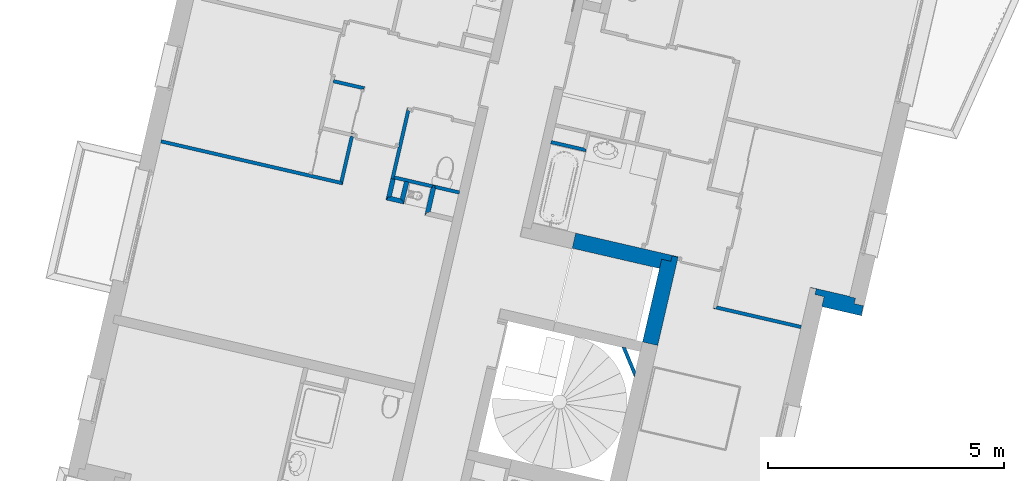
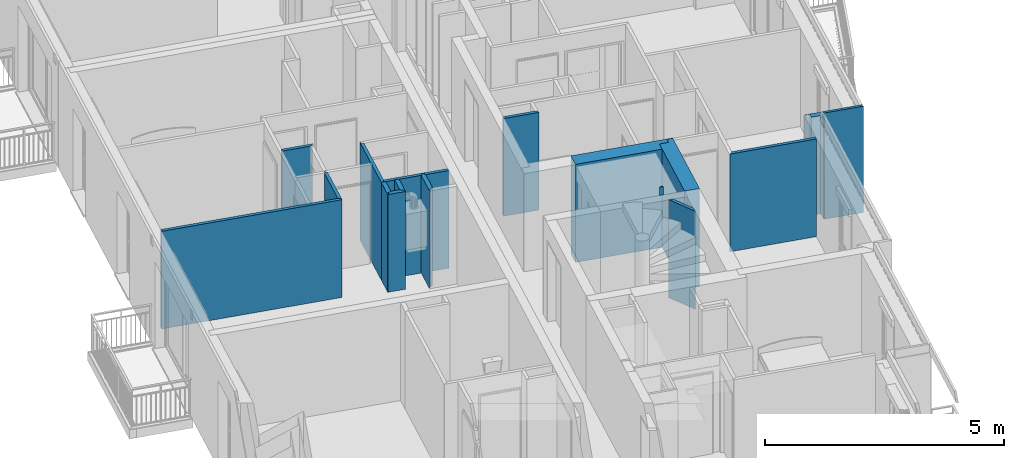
# One storey, part 43 of 91: 16 walls.
"""IFC2X3 building model written with IfcOpenShell, lengths in metres."""

import ifcopenshell
import ifcopenshell.guid

model = None  # the IFC model being written
_history = None  # IfcOwnerHistory: only IFC2X3 demands one
_inside = {}  # id of a spatial element -> (the spatial element, [elements in it])
_under = {}  # id of a project, library or spatial element -> (it, [spatial elements below it])
_declared = {}  # id of a project -> (the project, [libraries it declares])
_typed = {}  # id of a type object -> (the type object, [elements of that type])
_made_of = {}  # id of a material, layer set ... -> (it, [elements and type objects made of it])


def new_model(schema):
    """Start an empty IFC model of exactly this schema.

    Asked for "IFC4X3", IfcOpenShell would pick the latest addendum, in which some entities
    have other attributes; the version numbers below select the first issue.
    IFC2X3 requires an IfcOwnerHistory on every rooted entity: one is made here for all.
    """
    global model, _history
    if schema == "IFC4X3":
        model = ifcopenshell.file(schema_version=(4, 3, 0, 0))
    else:
        model = ifcopenshell.file(schema=schema)
    _inside.clear()
    _under.clear()
    _declared.clear()
    _typed.clear()
    _made_of.clear()
    _history = None
    if model.schema == "IFC2X3":
        org = make("IfcOrganization", Name="unknown")
        user = make(
            "IfcPersonAndOrganization",
            ThePerson=make("IfcPerson", FamilyName="unknown"),
            TheOrganization=org,
        )
        app = make(
            "IfcApplication",
            ApplicationDeveloper=org,
            Version="unknown",
            ApplicationFullName="unknown",
            ApplicationIdentifier="unknown",
        )
        _history = make(
            "IfcOwnerHistory",
            OwningUser=user,
            OwningApplication=app,
            ChangeAction="ADDED",
            CreationDate=0,
        )
    return model


def make(cls, **values):
    """One entity of the class cls with the attributes given. An attribute that is None is left unset."""
    return model.create_entity(
        cls, **{name: value for name, value in values.items() if value is not None}
    )


def entity(cls, *values):
    """Any entity or typed value of the class cls, its attributes in the order of the schema. None: left unset."""
    e = model.create_entity(cls)
    for i, value in enumerate(values):
        if value is not None:
            e[i] = value
    return e


def rooted(cls, **values):
    """An entity with a GlobalId (a new one), such as an element, a storey or a relation."""
    return make(cls, GlobalId=ifcopenshell.guid.new(), OwnerHistory=_history, **values)


def si_unit(unit_type, name, prefix=None):
    """IfcSIUnit, for example si_unit("LENGTHUNIT", "METRE", prefix="MILLI")."""
    return make("IfcSIUnit", UnitType=unit_type, Prefix=prefix, Name=name)


def converted_unit(unit_type, name, factor, base, dimensions=None, offset=None):
    """IfcConversionBasedUnit, such as the inch: factor (a typed value) times the base unit."""
    return make(
        "IfcConversionBasedUnit"
        if offset is None
        else "IfcConversionBasedUnitWithOffset",
        ConversionOffset=offset,
        Dimensions=None
        if dimensions is None
        else entity("IfcDimensionalExponents", *dimensions),
        UnitType=unit_type,
        Name=name,
        ConversionFactor=make(
            "IfcMeasureWithUnit", ValueComponent=factor, UnitComponent=base
        ),
    )


def derived_unit(unit_type, elements):
    """IfcDerivedUnit: a product of units, each with its exponent."""
    return make(
        "IfcDerivedUnit",
        Elements=[
            make("IfcDerivedUnitElement", Unit=unit, Exponent=power)
            for unit, power in elements
        ],
        UnitType=unit_type,
    )


def money_unit(currency):
    """IfcMonetaryUnit."""
    return make("IfcMonetaryUnit", Currency=currency)


def assignment(units):
    """IfcUnitAssignment: the units of a project."""
    return None if units is None else make("IfcUnitAssignment", Units=units)


def point(xyz):
    """IfcCartesianPoint."""
    return None if xyz is None else make("IfcCartesianPoint", Coordinates=xyz)


def direction(xyz):
    """IfcDirection."""
    return None if xyz is None else make("IfcDirection", DirectionRatios=xyz)


def frame(location, z_axis=None, x_axis=None):
    """IfcAxis2Placement3D, a coordinate frame: its origin and axes. An axis left out is left unset."""
    return make(
        "IfcAxis2Placement3D",
        Location=point(location),
        Axis=direction(z_axis),
        RefDirection=direction(x_axis),
    )


def origin_with_axes():
    """The frame at (0, 0, 0) with the z axis (0, 0, 1) and the x axis (1, 0, 0) written out."""
    return frame((0.0, 0.0, 0.0), z_axis=(0.0, 0.0, 1.0), x_axis=(1.0, 0.0, 0.0))


def place(relative_to, where):
    """IfcLocalPlacement: puts the frame where relative to a parent placement (None: the world)."""
    return make(
        "IfcLocalPlacement", PlacementRelTo=relative_to, RelativePlacement=where
    )


def context(
    kind, dimensions, precision=None, world=None, true_north=None, identifier=None
):
    """IfcGeometricRepresentationContext, for example the 3D "Model" context."""
    return make(
        "IfcGeometricRepresentationContext",
        ContextIdentifier=identifier,
        ContextType=kind,
        CoordinateSpaceDimension=dimensions,
        Precision=precision,
        WorldCoordinateSystem=world,
        TrueNorth=true_north,
    )


def subcontext(parent, identifier, kind, view, scale=None):
    """IfcGeometricRepresentationSubContext, for example "Body" below "Model"."""
    return make(
        "IfcGeometricRepresentationSubContext",
        ContextIdentifier=identifier,
        ContextType=kind,
        ParentContext=parent,
        TargetScale=scale,
        TargetView=view,
    )


def project(units=None, contexts=None):
    """IfcProject with its units and contexts."""
    return rooted(
        "IfcProject",
        Name="project",
        RepresentationContexts=contexts,
        UnitsInContext=assignment(units),
    )


def spatial(cls, under=None, at=None, **own):
    """A site, building, storey or space (cls), placed at a placement, below another one or the project."""
    s = rooted(cls, ObjectPlacement=at, **own)
    if under is not None:
        _under.setdefault(under.id(), (under, []))[1].append(s)
    return s


def faces_of(points, faces, orient=None, outer=None):
    """IfcFace entities. A face is a list of loops; a loop is a list of indices into points, from 0.

    orient and outer hold one flag for each loop. By default every Orientation is true, the
    first loop of a face is its IfcFaceOuterBound and the others are IfcFaceBound.
    """
    made = []
    for i, loops in enumerate(faces):
        bounds = []
        for j, loop in enumerate(loops):
            is_outer = j == 0 if outer is None else outer[i][j]
            bounds.append(
                make(
                    "IfcFaceOuterBound" if is_outer else "IfcFaceBound",
                    Bound=make("IfcPolyLoop", Polygon=[points[k] for k in loop]),
                    Orientation=True if orient is None else orient[i][j],
                )
            )
        made.append(make("IfcFace", Bounds=bounds))
    return made


def faceted_brep(points, faces, orient=None, outer=None, voids=None):
    """IfcFacetedBrep: a solid bounded by flat faces; with voids (closed shells), ...WithVoids."""
    shared = [point(p) for p in points]
    hull = make("IfcClosedShell", CfsFaces=faces_of(shared, faces, orient, outer))
    if voids is None:
        return make("IfcFacetedBrep", Outer=hull)
    return make(
        "IfcFacetedBrepWithVoids",
        Outer=hull,
        Voids=[
            make(cls, CfsFaces=faces_of(shared, fs, o, b)) for cls, fs, o, b in voids
        ],
    )


def shape(context_of_items, identifier, shape_type, items):
    """IfcShapeRepresentation: the items that make up one representation, for example the "Body"."""
    return make(
        "IfcShapeRepresentation",
        ContextOfItems=context_of_items,
        RepresentationIdentifier=identifier,
        RepresentationType=shape_type,
        Items=items,
    )


def material(Name=None, Category=None):
    """IfcMaterial."""
    return make("IfcMaterial", Name=Name, Category=Category)


def material_list(materials):
    """IfcMaterialList."""
    return make("IfcMaterialList", Materials=materials)


def made_of(thing, what):
    """Note that an element or type object is made of a material, layer set ...; save() writes the relation."""
    if what is not None:
        _made_of.setdefault(what.id(), (what, []))[1].append(thing)
    return thing


def type_object(cls, material=None, **own):
    """A type object (cls), such as IfcWallType, which elements share."""
    return made_of(rooted(cls, **own), material)


def element(
    cls,
    number,
    at=None,
    inside=None,
    cuts=None,
    type_object=None,
    material=None,
    context=None,
    identifier="Body",
    shape_type=None,
    held_by="IfcProductDefinitionShape",
    body=None,
    shapes=None,
    **own,
):
    """One element of the class cls, such as IfcWall. Its Tag is "e" and its number.

    at: its placement. inside: the storey or other place that contains it. cuts: it is an
    opening in that element (IfcRelVoidsElement). A single representation is given by context,
    identifier, shape_type and body (its items); several are given by shapes. held_by: the class
    of the entity that holds the representations. save() writes the other relations.
    """
    e = rooted(cls, Tag="e%d" % number, ObjectPlacement=at, **own)
    if body is not None:
        shapes = [shape(context, identifier, shape_type, body)]
    if shapes is not None:
        e.Representation = make(held_by, Representations=shapes)
    if inside is not None:
        _inside.setdefault(inside.id(), (inside, []))[1].append(e)
    if cuts is not None:
        rooted(
            "IfcRelVoidsElement", RelatingBuildingElement=cuts, RelatedOpeningElement=e
        )
    if type_object is not None:
        _typed.setdefault(type_object.id(), (type_object, []))[1].append(e)
    return made_of(e, material)


def aggregate(whole, parts):
    """IfcRelAggregates: a whole, such as a stair, and the parts it consists of."""
    return rooted("IfcRelAggregates", RelatingObject=whole, RelatedObjects=parts)


def save(model, path):
    """Write the relations noted so far, then the file.

    IfcRelAggregates (storeys below a building ...), IfcRelContainedInSpatialStructure (elements
    in a storey), IfcRelDefinesByType, IfcRelAssociatesMaterial and IfcRelDeclares: one each for
    every whole, place, type object, material and project.
    """
    for whole, parts in _under.values():
        aggregate(whole, parts)
    for where, things in _inside.values():
        rooted(
            "IfcRelContainedInSpatialStructure",
            RelatedElements=things,
            RelatingStructure=where,
        )
    for kind, things in _typed.values():
        rooted("IfcRelDefinesByType", RelatedObjects=things, RelatingType=kind)
    for what, things in _made_of.values():
        rooted("IfcRelAssociatesMaterial", RelatedObjects=things, RelatingMaterial=what)
    for by, libraries in _declared.values():
        rooted("IfcRelDeclares", RelatingContext=by, RelatedDefinitions=libraries)
    model.write(path)


model = new_model("IFC2X3")

# Units and contexts
model_context = context("Model", 3, precision=1e-05, world=origin_with_axes(), true_north=direction((0.0, 1.0)))
body_context = subcontext(model_context, "Body", "Model", "MODEL_VIEW")
ifc_project = project(units=[si_unit("LENGTHUNIT", "METRE"), si_unit("AREAUNIT", "SQUARE_METRE"), si_unit("VOLUMEUNIT", "CUBIC_METRE"), converted_unit("PLANEANGLEUNIT", "DEGREE", entity("IfcPlaneAngleMeasure", 0.0174532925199), si_unit("PLANEANGLEUNIT", "RADIAN"), dimensions=[0, 0, 0, 0, 0, 0, 0]), si_unit("SOLIDANGLEUNIT", "STERADIAN"), money_unit("EUR"), converted_unit("TIMEUNIT", "Year", entity("IfcTimeMeasure", 31556926.0), si_unit("TIMEUNIT", "SECOND"), dimensions=[0, 0, 1, 0, 0, 0, 0]), si_unit("MASSUNIT", "GRAM", prefix="KILO"), si_unit("THERMODYNAMICTEMPERATUREUNIT", "DEGREE_CELSIUS"), si_unit("LUMINOUSINTENSITYUNIT", "LUMEN"), si_unit("ENERGYUNIT", "JOULE", prefix="MEGA"), derived_unit("THERMALCONDUCTANCEUNIT", [(si_unit("POWERUNIT", "WATT"), 1), (si_unit("LENGTHUNIT", "METRE"), -1), (si_unit("THERMODYNAMICTEMPERATUREUNIT", "KELVIN"), -1)]), derived_unit("SPECIFICHEATCAPACITYUNIT", [(si_unit("ENERGYUNIT", "JOULE"), 1), (si_unit("MASSUNIT", "GRAM", prefix="KILO"), -1), (si_unit("THERMODYNAMICTEMPERATUREUNIT", "KELVIN"), -1)]), derived_unit("MASSDENSITYUNIT", [(si_unit("MASSUNIT", "GRAM", prefix="KILO"), 1), (si_unit("VOLUMEUNIT", "CUBIC_METRE"), -1)])], contexts=[model_context])

# Site, building, storey
site_placement = place(None, origin_with_axes())
site = spatial("IfcSite", under=ifc_project, at=site_placement, Name="Site", CompositionType="ELEMENT")
building_placement = place(site_placement, origin_with_axes())
building = spatial("IfcBuilding", under=site, at=building_placement, Name="Bâtiment", CompositionType="ELEMENT")
storey_placement = place(building_placement, frame((0.0, 0.0, 5.44), z_axis=(0.0, 0.0, 1.0), x_axis=(1.0, 0.0, 0.0)))
storey = spatial("IfcBuildingStorey", under=building, at=storey_placement, Name="R+2", CompositionType="ELEMENT", Elevation=5.44)

# Walls
ifc_material_1 = material(Name="Finition ext - Crépis")
ifc_material_2 = material(Name="Béton cellulaire")
ifc_material_3 = material(Name="Mortier")
ifc_material_4 = material(Name="Isolation - Polystyrène expansé")
ifc_material_5 = material(Name="Bloc ELITHERM")
ifc_material_6 = material(Name="Isolation - Polystyrène extrudé")
ifc_material_7 = material(Name="Finition int - Plaque de plâtre")
ifc_material_list_1 = material_list([ifc_material_1, ifc_material_2, ifc_material_3, ifc_material_4, ifc_material_5, ifc_material_6, ifc_material_7])
wall_type_1 = type_object("IfcWallType", Name="Mur ALKERN + planelle 21 345 x 2720", PredefinedType="USERDEFINED")
wall_1_placement = place(storey_placement, frame((-3.12464067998, -5.86018187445, 0.0), z_axis=(0.0, 0.0, 1.0), x_axis=(-0.974387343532, 0.224876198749, 0.0)))
element("IfcWall", 1, at=wall_1_placement, inside=storey, type_object=wall_type_1, material=ifc_material_list_1, Name="Mue bloc ALKERN isolé", ObjectType="SOLIDWALL", context=body_context, shape_type="Brep", body=[
    faceted_brep([(0.855808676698, -0.0149999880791, 2.72), (6.98661306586e-09, -0.0149999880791, 2.72), (6.98661306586e-09, -0.0149999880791, 0.0), (0.855808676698, -0.0149999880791, 0.0), (0.855808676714, 0.0, 2.72), (7.00355373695e-09, 0.0, 2.72), (7.00355373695e-09, 0.0, 0.0), (0.855808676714, 0.0, 0.0)], [[[0, 1, 2, 3]], [[1, 0, 4, 5]], [[5, 6, 2, 1]], [[6, 7, 3, 2]], [[7, 4, 0, 3]], [[5, 4, 7, 6]]]),
    faceted_brep([(0.0149999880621, -0.015, 2.72), (0.0149999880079, -0.0629999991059, 2.72), (0.870808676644, -0.0629999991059, 2.72), (0.870808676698, -0.015, 2.72), (0.0149999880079, -0.0629999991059, 2.51999999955), (0.0149999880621, -0.015, 2.51999999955), (0.870808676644, -0.0629999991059, 2.51999999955), (0.870808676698, -0.015, 2.51999999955)], [[[0, 1, 2, 3]], [[4, 1, 0, 5]], [[1, 4, 6, 2]], [[3, 2, 6, 7]], [[5, 0, 3, 7]], [[4, 5, 7, 6]]]),
    faceted_brep([(0.0149999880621, -0.015, 2.51999999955), (0.0149999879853, -0.083, 2.51999999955), (0.870808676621, -0.083, 2.52), (0.870808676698, -0.015, 2.52), (0.0149999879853, -0.083, 2.50999999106), (0.0149999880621, -0.015, 2.50999999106), (0.870808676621, -0.083, 2.51), (0.870808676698, -0.015, 2.51)], [[[0, 1, 2, 3]], [[4, 1, 0, 5]], [[1, 4, 6, 2]], [[3, 2, 6, 7]], [[5, 0, 3, 7]], [[4, 5, 7, 6]]]),
    faceted_brep([(0.0649033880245, -0.0830000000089, 2.51999999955), (0.0649033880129, -0.083000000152, 2.72), (0.0629999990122, -0.083000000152, 2.72), (0.0629999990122, -0.083000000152, 2.51999999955), (0.0649033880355, -0.0629999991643, 2.72), (0.064903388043, -0.0629999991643, 2.51999999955), (0.0629999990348, -0.0630000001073, 2.72), (0.0629999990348, -0.0630000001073, 2.51999999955)], [[[0, 1, 2, 3]], [[4, 1, 0, 5]], [[1, 4, 6, 2]], [[7, 3, 2, 6]], [[5, 0, 3, 7]], [[4, 5, 7, 6]]]),
    faceted_brep([(0.0149999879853, -0.0829999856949, 2.50999999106), (0.0149999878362, -0.214999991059, 2.50999999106), (0.870808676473, -0.214999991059, 2.50999999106), (0.870808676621, -0.0829999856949, 2.50999999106), (0.0149999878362, -0.214999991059, 0.0), (0.0149999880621, -0.015, 2.50999999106), (0.0149999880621, -0.015, 0.0), (0.870808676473, -0.214999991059, 0.0), (0.870808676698, -0.015, 0.0), (0.870808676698, -0.015, 2.50999999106)], [[[0, 1, 2, 3]], [[4, 1, 0, 5, 6]], [[1, 4, 7, 2]], [[3, 2, 7, 8, 9]], [[5, 0, 3, 9]], [[6, 5, 9, 8]], [[4, 6, 8, 7]]]),
    faceted_brep([(1.07080868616, -0.215000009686, 2.51), (0.214999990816, -0.215000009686, 2.50999999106), (0.214999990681, -0.335000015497, 2.50999999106), (1.07080868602, -0.335000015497, 2.51), (1.07080868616, -0.215000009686, 0.0), (0.214999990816, -0.215000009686, 0.0), (0.214999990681, -0.335000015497, 0.0), (1.07080868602, -0.335000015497, 0.0)], [[[0, 1, 2, 3]], [[4, 5, 1, 0]], [[5, 6, 2, 1]], [[3, 2, 6, 7]], [[4, 0, 3, 7]], [[7, 6, 5, 4]]]),
    faceted_brep([(1.19080869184, -0.335000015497, 2.51), (0.335000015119, -0.335000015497, 2.51), (0.335000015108, -0.34499998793, 2.51), (1.19080869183, -0.34499998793, 2.51), (1.19080869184, -0.335000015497, 0.0), (0.335000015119, -0.335000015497, 0.0), (0.335000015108, -0.34499998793, 0.0), (1.19080869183, -0.34499998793, 0.0)], [[[0, 1, 2, 3]], [[4, 5, 1, 0]], [[5, 6, 2, 1]], [[3, 2, 6, 7]], [[4, 0, 3, 7]], [[7, 6, 5, 4]]]),
])
ifc_material_8 = material(Name="Cloison - Carreaux de plâtre")
wall_type_2 = type_object("IfcWallType", Name="Cloison - Carreaux de plâtre 74", PredefinedType="USERDEFINED")
wall_2_placement = place(storey_placement, frame((-8.31029544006, -6.29006190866, 0.0), z_axis=(0.0, 0.0, 1.0), x_axis=(0.383112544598, -0.92370167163, 0.0)))
element("IfcWall", 2, at=wall_2_placement, inside=storey, type_object=wall_type_2, material=ifc_material_8, Name="Carreaux de plâtre 8cm", ObjectType="PARTITIONING", context=body_context, shape_type="Brep", body=[
    faceted_brep([(0.0, 0.074, 2.72), (0.0, 0.0, 2.72), (0.0528269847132, 0.0740000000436, 2.72), (0.0, 0.074, 2.51), (0.0, 0.0, 2.51), (0.0528269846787, 0.0739999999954, 2.51)], [[[0, 1, 2]], [[3, 4, 1, 0]], [[4, 5, 2, 1]], [[0, 2, 5, 3]], [[3, 5, 4]]]),
    faceted_brep([(0.298560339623, 0.074, 0.0), (0.298560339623, 0.074, 2.51), (0.844290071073, 0.074, 2.51), (0.844290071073, 0.074, 0.0), (0.245733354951, 0.0, 0.0), (0.245733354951, 0.0, 2.51), (0.947949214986, 0.0, 2.51), (0.94794921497, 0.0, 0.0)], [[[0, 1, 2, 3]], [[4, 5, 1, 0]], [[5, 6, 2, 1]], [[3, 2, 6, 7]], [[3, 7, 4, 0]], [[7, 6, 5, 4]]]),
])
ifc_material_9 = material(Name="Isolation - Laine de roche")
ifc_material_list_2 = material_list([ifc_material_7, ifc_material_9, ifc_material_7])
wall_type_3 = type_object("IfcWallType", Name="3 - Cloison 72mm Placostil 74", PredefinedType="USERDEFINED")
wall_3_placement = place(storey_placement, frame((-12.2584688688, -3.14533732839, 0.0), z_axis=(0.0, 0.0, 1.0), x_axis=(-0.97438734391, 0.224876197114, 0.0)))
element("IfcWall", 3, at=wall_3_placement, inside=storey, type_object=wall_type_3, material=ifc_material_list_2, Name="Cloison Placostil 72/48", ObjectType="PARTITIONING", context=body_context, shape_type="Brep", body=[
    faceted_brep([(0.567947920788, -0.013, 0.0), (0.801000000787, -0.013, 0.0), (0.801000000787, -0.013, 2.5), (0.567947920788, -0.013, 2.5), (0.568109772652, 0.0, 0.0), (0.801000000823, 2.78449263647e-10, 0.0), (0.801000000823, 2.78449263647e-10, 2.5), (0.568109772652, 0.0, 2.5)], [[[0, 1, 2, 3]], [[4, 5, 1, 0]], [[5, 6, 2, 1]], [[3, 2, 6, 7]], [[4, 0, 3, 7]], [[7, 6, 5, 4]]]),
    faceted_brep([(0.0, -0.013, 0.0), (0.493942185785, -0.013, 0.0), (0.493942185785, -0.013, 2.5), (0.0, -0.013, 2.5), (0.0, 0.0, 0.0), (0.49410403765, 0.0, 0.0), (0.49410403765, 0.0, 2.5), (0.0, 0.0, 2.5)], [[[0, 1, 2, 3]], [[4, 5, 1, 0]], [[5, 6, 2, 1]], [[3, 2, 6, 7]], [[4, 0, 3, 7]], [[7, 6, 5, 4]]]),
    faceted_brep([(-0.0260000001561, -0.061, 0.0), (0.814000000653, -0.061, 0.0), (0.814000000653, -0.061, 2.5), (-0.0260000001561, -0.061, 2.5), (-0.0260000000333, -0.013, 0.0), (0.814000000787, -0.013, 0.0), (0.814000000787, -0.013, 2.5), (-0.0260000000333, -0.013, 2.5)], [[[0, 1, 2, 3]], [[4, 5, 1, 0]], [[5, 6, 2, 1]], [[3, 2, 6, 7]], [[4, 0, 3, 7]], [[7, 6, 5, 4]]]),
    faceted_brep([(-0.0740000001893, -0.074, 0.0), (0.801000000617, -0.074, 0.0), (0.801000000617, -0.074, 2.5), (-0.0740000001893, -0.074, 2.5), (-0.0740000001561, -0.061, 0.0), (0.801000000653, -0.061, 0.0), (0.801000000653, -0.061, 2.5), (-0.0740000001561, -0.061, 2.5)], [[[0, 1, 2, 3]], [[4, 5, 1, 0]], [[5, 6, 2, 1]], [[3, 2, 6, 7]], [[4, 0, 3, 7]], [[7, 6, 5, 4]]]),
])
wall_4_placement = place(storey_placement, frame((-12.7629494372, -1.44021904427, 0.0), z_axis=(0.0, 0.0, 1.0), x_axis=(-0.224876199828, -0.974387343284, 0.0)))
element("IfcWall", 4, at=wall_4_placement, inside=storey, type_object=wall_type_3, material=ifc_material_list_2, Name="Cloison Placostil 72/48", ObjectType="PARTITIONING", context=body_context, shape_type="Brep", body=[
    faceted_brep([(1.54800000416, 0.074, 0.0), (1.53500000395, 0.074, 0.0), (1.53500000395, 0.074, 2.5), (1.54800000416, 0.074, 2.5), (1.54800000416, 0.061, 0.0), (1.53500000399, 0.061, 0.0), (1.53500000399, 0.061, 2.5), (1.54800000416, 0.061, 2.5)], [[[0, 1, 2, 3]], [[4, 5, 1, 0]], [[5, 6, 2, 1]], [[3, 2, 6, 7]], [[3, 7, 4, 0]], [[7, 6, 5, 4]]]),
    faceted_brep([(0.0740000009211, 0.061, 2.5), (1.48700000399, 0.061, 2.5), (1.48700000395, 0.074, 2.5), (0.0740000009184, 0.074, 2.5), (0.0740000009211, 0.061, 0.0), (1.48700000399, 0.061, 0.0), (1.48700000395, 0.074, 0.0), (0.0740000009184, 0.074, 0.0)], [[[0, 1, 2, 3]], [[4, 5, 1, 0]], [[5, 6, 2, 1]], [[3, 2, 6, 7]], [[3, 7, 4, 0]], [[7, 6, 5, 4]]]),
    faceted_brep([(1.54800000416, 0.013, 0.0), (0.061000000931, 0.013, 0.0), (0.0610000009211, 0.061, 0.0), (1.54800000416, 0.061, 0.0), (1.54800000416, 0.013, 2.5), (0.061000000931, 0.013, 2.5), (0.0610000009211, 0.061, 2.5), (1.54800000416, 0.061, 2.5)], [[[0, 1, 2, 3]], [[4, 5, 1, 0]], [[6, 2, 1, 5]], [[3, 2, 6, 7]], [[7, 4, 0, 3]], [[7, 6, 5, 4]]]),
    faceted_brep([(1.54800000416, 0.0, 0.0), (0.859293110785, 0.0, 0.0), (0.859293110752, 0.013, 0.0), (1.54800000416, 0.013, 0.0), (1.54800000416, 0.0, 2.5), (0.859293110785, 0.0, 2.5), (0.859293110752, 0.013, 2.5), (1.54800000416, 0.013, 2.5)], [[[0, 1, 2, 3]], [[4, 5, 1, 0]], [[6, 2, 1, 5]], [[3, 2, 6, 7]], [[7, 4, 0, 3]], [[7, 6, 5, 4]]]),
    faceted_brep([(0.0130000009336, 0.0, 0.0), (0.013000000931, 0.013, 0.0), (0.811293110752, 0.013, 0.0), (0.811293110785, 0.0, 0.0), (0.0130000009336, 0.0, 2.5), (0.013000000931, 0.013, 2.5), (0.811293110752, 0.013, 2.5), (0.811293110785, 0.0, 2.5)], [[[0, 1, 2, 3]], [[1, 0, 4, 5]], [[1, 5, 6, 2]], [[7, 3, 2, 6]], [[4, 0, 3, 7]], [[5, 4, 7, 6]]]),
])
wall_5_placement = place(storey_placement, frame((-14.1354559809, -3.08704775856, 0.0), z_axis=(0.0, 0.0, 1.0), x_axis=(0.224876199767, 0.974387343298, 0.0)))
element("IfcWall", 5, at=wall_5_placement, inside=storey, type_object=wall_type_3, material=ifc_material_list_2, Name="Cloison Placostil 72/48", ObjectType="PARTITIONING", context=body_context, shape_type="Brep", body=[
    faceted_brep([(1.04099999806, 0.074, 0.0), (1.04099999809, 0.061, 0.0), (0.0739999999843, 0.061, 0.0), (0.0739999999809, 0.074, 0.0), (1.04099999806, 0.074, 2.5), (1.04099999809, 0.061, 2.5), (0.0739999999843, 0.061, 2.5), (0.0739999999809, 0.074, 2.5)], [[[0, 1, 2, 3]], [[1, 0, 4, 5]], [[1, 5, 6, 2]], [[7, 3, 2, 6]], [[4, 0, 3, 7]], [[5, 4, 7, 6]]]),
    faceted_brep([(1.05399999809, 0.061, 0.0), (1.05399999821, 0.013, 0.0), (0.0609999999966, 0.013, 0.0), (0.0609999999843, 0.061, 0.0), (1.05399999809, 0.061, 2.5), (1.05399999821, 0.013, 2.5), (0.0609999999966, 0.013, 2.5), (0.0609999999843, 0.061, 2.5)], [[[0, 1, 2, 3]], [[1, 0, 4, 5]], [[1, 5, 6, 2]], [[7, 3, 2, 6]], [[4, 0, 3, 7]], [[5, 4, 7, 6]]]),
    faceted_brep([(1.10199999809, 0.061, 0.0), (1.11499999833, 0.061, 0.0), (1.11499999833, 0.013, 0.0), (1.10199999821, 0.013, 0.0), (1.10199999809, 0.061, 2.5), (1.11499999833, 0.061, 2.5), (1.11499999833, 0.013, 2.5), (1.10199999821, 0.013, 2.5)], [[[0, 1, 2, 3]], [[4, 5, 1, 0]], [[2, 1, 5, 6]], [[3, 2, 6, 7]], [[4, 0, 3, 7]], [[7, 6, 5, 4]]]),
    faceted_brep([(1.04099999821, 0.013, 0.0), (1.04099999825, 0.0, 0.0), (0.013, 0.0, 0.0), (0.0129999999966, 0.013, 0.0), (1.04099999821, 0.013, 2.5), (1.04099999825, 0.0, 2.5), (0.013, 0.0, 2.5), (0.0129999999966, 0.013, 2.5)], [[[0, 1, 2, 3]], [[1, 0, 4, 5]], [[1, 5, 6, 2]], [[7, 3, 2, 6]], [[4, 0, 3, 7]], [[5, 4, 7, 6]]]),
])
wall_6_placement = place(storey_placement, frame((-11.4887028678, -3.32298952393, 0.0), z_axis=(0.0, 0.0, 1.0), x_axis=(-0.97438734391, 0.224876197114, 0.0)))
element("IfcWall", 6, at=wall_6_placement, inside=storey, type_object=wall_type_3, material=ifc_material_list_2, Name="Cloison Placostil 72/48", ObjectType="PARTITIONING", context=body_context, shape_type="Brep", body=[
    faceted_brep([(0.179999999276, -0.013, 0.0), (0.689999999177, -0.013, 0.0), (0.689999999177, -0.013, 2.5), (0.179999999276, -0.013, 2.5), (0.179999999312, 0.0, 0.0), (0.68999999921, 0.0, 0.0), (0.68999999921, 0.0, 2.5), (0.179999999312, 0.0, 2.5)], [[[0, 1, 2, 3]], [[4, 5, 1, 0]], [[5, 6, 2, 1]], [[3, 2, 6, 7]], [[0, 3, 7, 4]], [[7, 6, 5, 4]]]),
    faceted_brep([(0.179999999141, -0.061, 0.0), (0.715999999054, -0.061, 0.0), (0.715999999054, -0.061, 2.5), (0.179999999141, -0.061, 2.5), (0.179999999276, -0.013, 0.0), (0.715999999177, -0.013, 0.0), (0.715999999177, -0.013, 2.5), (0.179999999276, -0.013, 2.5)], [[[0, 1, 2, 3]], [[4, 5, 1, 0]], [[5, 6, 2, 1]], [[3, 2, 6, 7]], [[0, 3, 7, 4]], [[7, 6, 5, 4]]]),
    faceted_brep([(0.179999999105, -0.074, 0.0), (0.689999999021, -0.074, 0.0), (0.689999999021, -0.074, 2.5), (0.179999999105, -0.074, 2.5), (0.179999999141, -0.061, 0.0), (0.689999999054, -0.061, 0.0), (0.689999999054, -0.061, 2.5), (0.179999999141, -0.061, 2.5)], [[[0, 1, 2, 3]], [[4, 5, 1, 0]], [[5, 6, 2, 1]], [[3, 2, 6, 7]], [[0, 3, 7, 4]], [[7, 6, 5, 4]]]),
])
wall_7_placement = place(storey_placement, frame((-13.6544457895, -1.00283323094, 0.0), z_axis=(0.0, 0.0, 1.0), x_axis=(-0.974387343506, 0.224876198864, 0.0)))
element("IfcWall", 7, at=wall_7_placement, inside=storey, type_object=wall_type_3, material=ifc_material_list_2, Name="Cloison Placostil 72/48", ObjectType="PARTITIONING", context=body_context, shape_type="Brep", body=[
    faceted_brep([(0.674000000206, 0.074, 0.0), (0.674000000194, 0.061, 0.0), (0.0610000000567, 0.061, 0.0), (0.0610000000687, 0.074, 0.0), (0.674000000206, 0.074, 2.5), (0.674000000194, 0.061, 2.5), (0.0610000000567, 0.061, 2.5), (0.0610000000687, 0.074, 2.5)], [[[0, 1, 2, 3]], [[1, 0, 4, 5]], [[1, 5, 6, 2]], [[7, 3, 2, 6]], [[4, 0, 3, 7]], [[5, 4, 7, 6]]]),
    faceted_brep([(0.687000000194, 0.061, 0.0), (0.687000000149, 0.013, 0.0), (0.0130000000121, 0.013, 0.0), (0.0130000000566, 0.061, 0.0), (0.687000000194, 0.061, 2.5), (0.687000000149, 0.013, 2.5), (0.0130000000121, 0.013, 2.5), (0.0130000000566, 0.061, 2.5)], [[[0, 1, 2, 3]], [[1, 0, 4, 5]], [[1, 5, 6, 2]], [[7, 3, 2, 6]], [[4, 0, 3, 7]], [[5, 4, 7, 6]]]),
    faceted_brep([(0.674000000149, 0.013, 0.0), (0.674000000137, 0.0, 0.0), (0.0, 0.0, 0.0), (0.0, 0.013, 0.0), (0.674000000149, 0.013, 2.5), (0.674000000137, 0.0, 2.5), (0.0, 0.0, 2.5), (0.0, 0.013, 2.5)], [[[0, 1, 2, 3]], [[1, 0, 4, 5]], [[1, 5, 6, 2]], [[7, 3, 2, 6]], [[4, 0, 3, 7]], [[5, 4, 7, 6]]]),
])
wall_8_placement = place(storey_placement, frame((-14.1354559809, -3.08704775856, 0.0), z_axis=(0.0, 0.0, 1.0), x_axis=(-0.974387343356, 0.224876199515, 0.0)))
element("IfcWall", 8, at=wall_8_placement, inside=storey, type_object=wall_type_3, material=ifc_material_list_2, Name="Cloison Placostil 72/48", ObjectType="PARTITIONING", context=body_context, shape_type="Brep", body=[
    faceted_brep([(0.0, -0.013, 2.5), (3.95828996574, -0.013, 2.5), (3.95828996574, 0.0, 2.5), (0.0, 0.0, 2.5), (0.0, -0.013, 0.0), (3.95828996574, -0.013, 0.0), (3.95828996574, 0.0, 0.0), (0.0, 0.0, 0.0)], [[[0, 1, 2, 3]], [[4, 5, 1, 0]], [[2, 1, 5, 6]], [[3, 2, 6, 7]], [[4, 0, 3, 7]], [[7, 6, 5, 4]]]),
    faceted_brep([(0.0129999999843, -0.061, 2.5), (3.95828996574, -0.061, 2.5), (3.95828996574, -0.013, 2.5), (0.0129999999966, -0.013, 2.5), (0.0129999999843, -0.061, 0.0), (3.95828996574, -0.061, 0.0), (3.95828996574, -0.013, 0.0), (0.0129999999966, -0.013, 0.0)], [[[0, 1, 2, 3]], [[4, 5, 1, 0]], [[2, 1, 5, 6]], [[3, 2, 6, 7]], [[4, 0, 3, 7]], [[7, 6, 5, 4]]]),
    faceted_brep([(0.735000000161, -0.074, 2.5), (3.95828996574, -0.074, 2.5), (3.95828996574, -0.061, 2.5), (0.735000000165, -0.061, 2.5), (0.735000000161, -0.074, 0.0), (3.95828996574, -0.074, 0.0), (3.95828996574, -0.061, 0.0), (0.735000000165, -0.061, 0.0)], [[[0, 1, 2, 3]], [[4, 5, 1, 0]], [[2, 1, 5, 6]], [[3, 2, 6, 7]], [[4, 0, 3, 7]], [[7, 6, 5, 4]]]),
    faceted_brep([(0.687000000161, -0.074, 2.5), (0.687000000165, -0.061, 2.5), (0.0609999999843, -0.061, 2.5), (0.0609999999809, -0.074, 2.5), (0.687000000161, -0.074, 0.0), (0.687000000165, -0.061, 0.0), (0.0609999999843, -0.061, 0.0), (0.0609999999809, -0.074, 0.0)], [[[0, 1, 2, 3]], [[1, 0, 4, 5]], [[1, 5, 6, 2]], [[7, 3, 2, 6]], [[4, 0, 3, 7]], [[5, 4, 7, 6]]]),
])
wall_9_placement = place(storey_placement, frame((-6.26296169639, -5.63237108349, 0.0), z_axis=(0.0, 0.0, 1.0), x_axis=(0.974387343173, -0.224876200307, 0.0)))
element("IfcWall", 9, at=wall_9_placement, inside=storey, type_object=wall_type_3, material=ifc_material_list_2, Name="Cloison Placostil 72/48", ObjectType="PARTITIONING", context=body_context, shape_type="Brep", body=[
    faceted_brep([(0.0740000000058, -0.013, 2.5), (1.90836083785, -0.013, 2.5), (1.90836083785, 0.0, 2.5), (0.074, 0.0, 2.5), (0.0740000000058, -0.013, 0.0), (1.90836083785, -0.013, 0.0), (1.90836083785, 0.0, 0.0), (0.074, 0.0, 0.0)], [[[0, 1, 2, 3]], [[4, 5, 1, 0]], [[2, 1, 5, 6]], [[3, 2, 6, 7]], [[4, 0, 3, 7]], [[7, 6, 5, 4]]]),
    faceted_brep([(0.0610000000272, -0.061, 2.5), (1.90836083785, -0.061, 2.5), (1.90836083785, -0.013, 2.5), (0.0610000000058, -0.013, 2.5), (0.0610000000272, -0.061, 0.0), (1.90836083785, -0.061, 0.0), (1.90836083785, -0.013, 0.0), (0.0610000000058, -0.013, 0.0)], [[[0, 1, 2, 3]], [[4, 5, 1, 0]], [[2, 1, 5, 6]], [[3, 2, 6, 7]], [[4, 0, 3, 7]], [[7, 6, 5, 4]]]),
    faceted_brep([(0.0130000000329, -0.074, 2.5), (1.90836083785, -0.074, 2.5), (1.90836083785, -0.061, 2.5), (0.0130000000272, -0.061, 2.5), (0.0130000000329, -0.074, 0.0), (1.90836083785, -0.074, 0.0), (1.90836083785, -0.061, 0.0), (0.0130000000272, -0.061, 0.0)], [[[0, 1, 2, 3]], [[4, 5, 1, 0]], [[2, 1, 5, 6]], [[3, 2, 6, 7]], [[4, 0, 3, 7]], [[7, 6, 5, 4]]]),
])
wall_type_4 = type_object("IfcWallType", Name="3 - Cloison Gaine Technique 72mm 74", PredefinedType="USERDEFINED")
wall_10_placement = place(storey_placement, frame((-9.90858877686, -2.17012114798, 0.0), z_axis=(0.0, 0.0, 1.0), x_axis=(0.974387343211, -0.224876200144, 0.0)))
element("IfcWall", 10, at=wall_10_placement, inside=storey, type_object=wall_type_4, material=ifc_material_list_2, Name="Cloison Placostil 72/48", ObjectType="PARTITIONING", context=body_context, shape_type="Brep", body=[
    faceted_brep([(0.90199999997, 0.074, 0.0), (0.901999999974, 0.061, 0.0), (0.189999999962, 0.061, 0.0), (0.189999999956, 0.074, 0.0), (0.90199999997, 0.074, 2.5), (0.901999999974, 0.061, 2.5), (0.189999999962, 0.061, 2.5), (0.189999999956, 0.074, 2.5)], [[[0, 1, 2, 3]], [[1, 0, 4, 5]], [[1, 5, 6, 2]], [[7, 3, 2, 6]], [[4, 0, 3, 7]], [[5, 4, 7, 6]]]),
    faceted_brep([(0.949999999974, 0.061, 0.0), (0.949999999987, 0.013, 0.0), (0.189999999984, 0.013, 0.0), (0.189999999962, 0.061, 0.0), (0.949999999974, 0.061, 2.5), (0.949999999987, 0.013, 2.5), (0.189999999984, 0.013, 2.5), (0.189999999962, 0.061, 2.5)], [[[0, 1, 2, 3]], [[1, 0, 4, 5]], [[1, 5, 6, 2]], [[7, 3, 2, 6]], [[4, 0, 3, 7]], [[5, 4, 7, 6]]]),
    faceted_brep([(0.962999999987, 0.013, 0.0), (0.96299999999, 0.0, 0.0), (0.18999999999, 0.0, 0.0), (0.189999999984, 0.013, 0.0), (0.962999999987, 0.013, 2.5), (0.96299999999, 0.0, 2.5), (0.18999999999, 0.0, 2.5), (0.189999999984, 0.013, 2.5)], [[[0, 1, 2, 3]], [[1, 0, 4, 5]], [[1, 5, 6, 2]], [[7, 3, 2, 6]], [[4, 0, 3, 7]], [[5, 4, 7, 6]]]),
])
ifc_material_list_3 = material_list([ifc_material_7, ifc_material_7, ifc_material_9, ifc_material_7, ifc_material_7])
wall_type_5 = type_object("IfcWallType", Name="3 - Cloison Gaine Technique 98mm 100", PredefinedType="USERDEFINED")
wall_11_placement = place(storey_placement, frame((-13.1110577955, -2.94857065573, 0.0), z_axis=(0.0, 0.0, 1.0), x_axis=(-0.224876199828, -0.974387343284, 0.0)))
element("IfcWall", 11, at=wall_11_placement, inside=storey, type_object=wall_type_5, material=ifc_material_list_3, Name="Cloison 98 isolée", ObjectType="PARTITIONING", context=body_context, shape_type="Brep", body=[
    faceted_brep([(0.367186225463, 0.087, 0.0), (0.0, 0.087, 0.0), (0.0, 0.1, 0.0), (0.367186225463, 0.1, 0.0), (0.367186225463, 0.087, 2.5), (0.0, 0.087, 2.5), (0.0, 0.1, 2.5), (0.367186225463, 0.1, 2.5)], [[[0, 1, 2, 3]], [[4, 5, 1, 0]], [[1, 5, 6, 2]], [[3, 2, 6, 7]], [[7, 4, 0, 3]], [[7, 6, 5, 4]]]),
    faceted_brep([(0.380186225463, 0.074, 0.0), (0.0, 0.074, 0.0), (0.0, 0.087, 0.0), (0.380186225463, 0.087, 0.0), (0.380186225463, 0.074, 2.5), (0.0, 0.074, 2.5), (0.0, 0.087, 2.5), (0.380186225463, 0.087, 2.5)], [[[0, 1, 2, 3]], [[4, 5, 1, 0]], [[1, 5, 6, 2]], [[3, 2, 6, 7]], [[7, 4, 0, 3]], [[7, 6, 5, 4]]]),
    faceted_brep([(0.393186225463, 0.026, 0.0), (0.0, 0.026, 0.0), (0.0, 0.074, 0.0), (0.393186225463, 0.074, 0.0), (0.393186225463, 0.026, 2.5), (0.0, 0.026, 2.5), (0.0, 0.074, 2.5), (0.393186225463, 0.074, 2.5)], [[[0, 1, 2, 3]], [[4, 5, 1, 0]], [[1, 5, 6, 2]], [[3, 2, 6, 7]], [[7, 4, 0, 3]], [[7, 6, 5, 4]]]),
    faceted_brep([(0.0, 0.013, 0.0), (0.0, 0.026, 0.0), (0.441186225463, 0.026, 0.0), (0.441186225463, 0.013, 0.0), (0.0, 0.013, 2.5), (0.0, 0.026, 2.5), (0.441186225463, 0.026, 2.5), (0.441186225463, 0.013, 2.5)], [[[0, 1, 2, 3]], [[4, 5, 1, 0]], [[1, 5, 6, 2]], [[7, 3, 2, 6]], [[4, 0, 3, 7]], [[5, 4, 7, 6]]]),
    faceted_brep([(0.0, 0.0, 0.0), (0.0, 0.013, 0.0), (0.454186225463, 0.013, 0.0), (0.454186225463, 0.0, 0.0), (0.0, 0.0, 2.5), (0.0, 0.013, 2.5), (0.454186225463, 0.013, 2.5), (0.454186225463, 0.0, 2.5)], [[[0, 1, 2, 3]], [[4, 5, 1, 0]], [[1, 5, 6, 2]], [[7, 3, 2, 6]], [[4, 0, 3, 7]], [[5, 4, 7, 6]]]),
])
wall_12_placement = place(storey_placement, frame((-12.3933945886, -3.72996973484, 0.0), z_axis=(0.0, 0.0, 1.0), x_axis=(0.224876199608, 0.974387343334, 0.0)))
element("IfcWall", 12, at=wall_12_placement, inside=storey, type_object=wall_type_5, material=ifc_material_list_3, Name="Cloison 98 isolée", ObjectType="PARTITIONING", context=body_context, shape_type="Brep", body=[
    faceted_brep([(0.613000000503, -0.013, 2.5), (0.613000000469, 0.0, 2.5), (0.013, 0.0, 2.5), (0.0129999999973, -0.013, 2.5), (0.613000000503, -0.013, 0.0), (0.613000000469, 0.0, 0.0), (0.013, 0.0, 0.0), (0.0129999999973, -0.013, 0.0)], [[[0, 1, 2, 3]], [[1, 0, 4, 5]], [[1, 5, 6, 2]], [[7, 3, 2, 6]], [[4, 0, 3, 7]], [[5, 4, 7, 6]]]),
    faceted_brep([(0.613000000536, -0.026, 2.5), (0.613000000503, -0.013, 2.5), (0.0259999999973, -0.013, 2.5), (0.0259999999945, -0.026, 2.5), (0.613000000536, -0.026, 0.0), (0.613000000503, -0.013, 0.0), (0.0259999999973, -0.013, 0.0), (0.0259999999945, -0.026, 0.0)], [[[0, 1, 2, 3]], [[1, 0, 4, 5]], [[1, 5, 6, 2]], [[7, 3, 2, 6]], [[4, 0, 3, 7]], [[5, 4, 7, 6]]]),
    faceted_brep([(0.0739999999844, -0.074, 2.5), (0.661000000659, -0.074, 2.5), (0.661000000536, -0.026, 2.5), (0.0739999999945, -0.026, 2.5), (0.0739999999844, -0.074, 0.0), (0.661000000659, -0.074, 0.0), (0.661000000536, -0.026, 0.0), (0.0739999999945, -0.026, 0.0)], [[[0, 1, 2, 3]], [[4, 5, 1, 0]], [[6, 2, 1, 5]], [[3, 2, 6, 7]], [[7, 4, 0, 3]], [[7, 6, 5, 4]]]),
    faceted_brep([(0.0869999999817, -0.087, 0.0), (0.613000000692, -0.087, 0.0), (0.613000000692, -0.087, 2.5), (0.0869999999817, -0.087, 2.5), (0.0869999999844, -0.074, 0.0), (0.613000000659, -0.074, 0.0), (0.613000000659, -0.074, 2.5), (0.0869999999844, -0.074, 2.5)], [[[0, 1, 2, 3]], [[4, 5, 1, 0]], [[5, 6, 2, 1]], [[3, 2, 6, 7]], [[4, 0, 3, 7]], [[7, 6, 5, 4]]]),
    faceted_brep([(0.674000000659, -0.074, 2.5), (0.661000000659, -0.074, 2.5), (0.661000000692, -0.087, 2.5), (0.674000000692, -0.087, 2.5), (0.674000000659, -0.074, 0.0), (0.661000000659, -0.074, 0.0), (0.661000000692, -0.087, 0.0), (0.674000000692, -0.087, 0.0)], [[[0, 1, 2, 3]], [[4, 5, 1, 0]], [[5, 6, 2, 1]], [[3, 2, 6, 7]], [[4, 0, 3, 7]], [[7, 6, 5, 4]]]),
    faceted_brep([(0.0999999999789, -0.1, 0.0), (0.613000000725, -0.1, 0.0), (0.613000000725, -0.1, 2.5), (0.0999999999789, -0.1, 2.5), (0.0999999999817, -0.087, 0.0), (0.613000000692, -0.087, 0.0), (0.613000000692, -0.087, 2.5), (0.0999999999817, -0.087, 2.5)], [[[0, 1, 2, 3]], [[4, 5, 1, 0]], [[5, 6, 2, 1]], [[3, 2, 6, 7]], [[4, 0, 3, 7]], [[7, 6, 5, 4]]]),
    faceted_brep([(0.674000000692, -0.087, 2.5), (0.661000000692, -0.087, 2.5), (0.661000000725, -0.1, 2.5), (0.674000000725, -0.1, 2.5), (0.674000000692, -0.087, 0.0), (0.661000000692, -0.087, 0.0), (0.661000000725, -0.1, 0.0), (0.674000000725, -0.1, 0.0)], [[[0, 1, 2, 3]], [[4, 5, 1, 0]], [[5, 6, 2, 1]], [[3, 2, 6, 7]], [[4, 0, 3, 7]], [[7, 6, 5, 4]]]),
])
wall_13_placement = place(storey_placement, frame((-12.837976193, -3.49106105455, 0.0), z_axis=(0.0, 0.0, 1.0), x_axis=(0.236989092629, 0.971512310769, 0.0)))
element("IfcWall", 13, at=wall_13_placement, inside=storey, type_object=wall_type_5, material=ifc_material_list_3, Name="Cloison 98 isolée", ObjectType="PARTITIONING", context=body_context, shape_type="Brep", body=[
    faceted_brep([(0.465977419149, 0.1, 0.0), (0.466139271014, 0.087, 0.0), (0.0989245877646, 0.087, 0.0), (0.0987627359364, 0.1, 0.0), (0.465977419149, 0.1, 2.5), (0.466139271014, 0.087, 2.5), (0.0989245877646, 0.087, 2.5), (0.0987627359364, 0.1, 2.5)], [[[0, 1, 2, 3]], [[1, 0, 4, 5]], [[1, 5, 6, 2]], [[7, 3, 2, 6]], [[4, 0, 3, 7]], [[5, 4, 7, 6]]]),
    faceted_brep([(0.479140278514, 0.087, 0.0), (0.479302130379, 0.074, 0.0), (0.0860854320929, 0.074, 0.0), (0.0859235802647, 0.087, 0.0), (0.479140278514, 0.087, 2.5), (0.479302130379, 0.074, 2.5), (0.0860854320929, 0.074, 2.5), (0.0859235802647, 0.087, 2.5)], [[[0, 1, 2, 3]], [[1, 0, 4, 5]], [[1, 5, 6, 2]], [[7, 3, 2, 6]], [[4, 0, 3, 7]], [[5, 4, 7, 6]]]),
    faceted_brep([(0.479302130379, 0.074, 0.0), (0.479899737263, 0.026, 0.0), (0.0736820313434, 0.026, 0.0), (0.0730844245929, 0.074, 0.0), (0.479302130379, 0.074, 2.5), (0.479899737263, 0.026, 2.5), (0.0736820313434, 0.026, 2.5), (0.0730844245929, 0.074, 2.5)], [[[0, 1, 2, 3]], [[1, 0, 4, 5]], [[1, 5, 6, 2]], [[7, 3, 2, 6]], [[4, 0, 3, 7]], [[5, 4, 7, 6]]]),
    faceted_brep([(0.479899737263, 0.026, 0.0), (0.480061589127, 0.013, 0.0), (0.0258401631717, 0.013, 0.0), (0.0256783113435, 0.026, 0.0), (0.479899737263, 0.026, 2.5), (0.480061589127, 0.013, 2.5), (0.0258401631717, 0.013, 2.5), (0.0256783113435, 0.026, 2.5)], [[[0, 1, 2, 3]], [[1, 0, 4, 5]], [[1, 5, 6, 2]], [[7, 3, 2, 6]], [[4, 0, 3, 7]], [[5, 4, 7, 6]]]),
    faceted_brep([(0.467060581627, 0.013, 0.0), (0.467222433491, 0.0, 0.0), (0.0130010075, 0.0, 0.0), (0.0128391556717, 0.013, 0.0), (0.467060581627, 0.013, 2.5), (0.467222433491, 0.0, 2.5), (0.0130010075, 0.0, 2.5), (0.0128391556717, 0.013, 2.5)], [[[0, 1, 2, 3]], [[1, 0, 4, 5]], [[1, 5, 6, 2]], [[7, 3, 2, 6]], [[4, 0, 3, 7]], [[5, 4, 7, 6]]]),
])
wall_14_placement = place(storey_placement, frame((-13.2161168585, -3.40379100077, 0.0), z_axis=(0.0, 0.0, 1.0), x_axis=(0.974387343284, -0.224876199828, 0.0)))
element("IfcWall", 14, at=wall_14_placement, inside=storey, type_object=wall_type_5, material=ifc_material_list_3, Name="Cloison 98 isolée", ObjectType="PARTITIONING", context=body_context, shape_type="Brep", body=[
    faceted_brep([(0.302318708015, 0.1, 0.0), (0.302156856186, 0.087, 0.0), (0.087, 0.087, 0.0), (0.087, 0.1, 0.0), (0.302318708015, 0.1, 2.5), (0.302156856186, 0.087, 2.5), (0.087, 0.087, 2.5), (0.087, 0.1, 2.5)], [[[0, 1, 2, 3]], [[1, 0, 4, 5]], [[1, 5, 6, 2]], [[7, 3, 2, 6]], [[4, 0, 3, 7]], [[5, 4, 7, 6]]]),
    faceted_brep([(0.315157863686, 0.087, 0.0), (0.314996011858, 0.074, 0.0), (0.074, 0.074, 0.0), (0.074, 0.087, 0.0), (0.315157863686, 0.087, 2.5), (0.314996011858, 0.074, 2.5), (0.074, 0.074, 2.5), (0.074, 0.087, 2.5)], [[[0, 1, 2, 3]], [[1, 0, 4, 5]], [[1, 5, 6, 2]], [[7, 3, 2, 6]], [[4, 0, 3, 7]], [[5, 4, 7, 6]]]),
    faceted_brep([(0.362999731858, 0.074, 0.0), (0.362402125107, 0.026, 0.0), (0.026, 0.026, 0.0), (0.026, 0.074, 0.0), (0.362999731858, 0.074, 2.5), (0.362402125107, 0.026, 2.5), (0.026, 0.026, 2.5), (0.026, 0.074, 2.5)], [[[0, 1, 2, 3]], [[1, 0, 4, 5]], [[1, 5, 6, 2]], [[7, 3, 2, 6]], [[4, 0, 3, 7]], [[5, 4, 7, 6]]]),
    faceted_brep([(0.375403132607, 0.026, 0.0), (0.375241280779, 0.013, 0.0), (0.013, 0.013, 0.0), (0.013, 0.026, 0.0), (0.375403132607, 0.026, 2.5), (0.375241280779, 0.013, 2.5), (0.013, 0.013, 2.5), (0.013, 0.026, 2.5)], [[[0, 1, 2, 3]], [[1, 0, 4, 5]], [[1, 5, 6, 2]], [[7, 3, 2, 6]], [[4, 0, 3, 7]], [[5, 4, 7, 6]]]),
    faceted_brep([(0.388242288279, 0.013, 0.0), (0.388080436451, 0.0, 0.0), (0.0, 0.0, 0.0), (0.0, 0.013, 0.0), (0.388242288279, 0.013, 2.5), (0.388080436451, 0.0, 2.5), (0.0, 0.0, 2.5), (0.0, 0.013, 2.5)], [[[0, 1, 2, 3]], [[1, 0, 4, 5]], [[1, 5, 6, 2]], [[7, 3, 2, 6]], [[4, 0, 3, 7]], [[5, 4, 7, 6]]]),
])
ifc_material_10 = material(Name="Béton")
ifc_material_list_4 = material_list([ifc_material_7, ifc_material_6, ifc_material_10])
wall_type_6 = type_object("IfcWallType", Name="2 - Murs Béton 20 + Isolant 120 330", PredefinedType="USERDEFINED")
wall_15_placement = place(storey_placement, frame((-7.41382429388, -4.85489858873, 0.0), z_axis=(0.0, 0.0, 1.0), x_axis=(-0.224876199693, -0.974387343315, 0.0)))
element("IfcWall", 15, at=wall_15_placement, inside=storey, type_object=wall_type_6, material=ifc_material_list_4, Name="M_Ext-008", ObjectType="SOLIDWALL", context=body_context, shape_type="Brep", body=[
    faceted_brep([(-0.330000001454, 0.32, 0.0), (-0.330000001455, 0.33, 0.0), (1.6000000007, 0.33, 0.0), (1.6000000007, 0.32, 0.0), (-0.330000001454, 0.32, 2.51), (-0.330000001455, 0.33, 2.51), (1.6000000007, 0.33, 2.51), (1.6000000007, 0.32, 2.51)], [[[0, 1, 2, 3]], [[1, 0, 4, 5]], [[1, 5, 6, 2]], [[7, 3, 2, 6]], [[4, 0, 3, 7]], [[5, 4, 7, 6]]]),
    faceted_brep([(-0.320000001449, 0.2, 0.0), (-0.320000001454, 0.32, 0.0), (1.6000000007, 0.32, 0.0), (1.6000000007, 0.2, 0.0), (-0.320000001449, 0.2, 2.51), (-0.320000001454, 0.32, 2.51), (1.6000000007, 0.32, 2.51), (1.6000000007, 0.2, 2.51)], [[[0, 1, 2, 3]], [[1, 0, 4, 5]], [[1, 5, 6, 2]], [[7, 3, 2, 6]], [[4, 0, 3, 7]], [[5, 4, 7, 6]]]),
    faceted_brep([(1.6000000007, 0.0, 0.0), (-0.20000000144, 0.0, 0.0), (-0.200000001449, 0.2, 0.0), (1.6000000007, 0.2, 0.0), (1.6000000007, 0.0, 2.51), (-0.20000000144, 0.0, 2.51), (-0.200000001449, 0.2, 2.51), (1.6000000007, 0.2, 2.51)], [[[0, 1, 2, 3]], [[4, 5, 1, 0]], [[6, 2, 1, 5]], [[3, 2, 6, 7]], [[7, 4, 0, 3]], [[7, 6, 5, 4]]]),
])
ifc_material_list_5 = material_list([ifc_material_10, ifc_material_6, ifc_material_7])
wall_16_placement = place(storey_placement, frame((-7.41382429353, -4.85489858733, 0.0), z_axis=(0.0, 0.0, 1.0), x_axis=(-0.974387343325, 0.224876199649, 0.0)))
element("IfcWall", 16, at=wall_16_placement, inside=storey, type_object=wall_type_6, material=ifc_material_list_5, Name="M_Ext-008", ObjectType="SOLIDWALL", context=body_context, shape_type="Brep", body=[
    faceted_brep([(0.0, -0.2, 2.51), (1.90000000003, -0.2, 2.51), (1.90000000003, 0.0, 2.51), (0.0, 0.0, 2.51), (0.0, -0.2, 0.0), (1.90000000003, -0.2, 0.0), (1.90000000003, 0.0, 0.0), (0.0, 0.0, 0.0)], [[[0, 1, 2, 3]], [[4, 5, 1, 0]], [[2, 1, 5, 6]], [[3, 2, 6, 7]], [[4, 0, 3, 7]], [[7, 6, 5, 4]]]),
    faceted_brep([(-0.199999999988, -0.32, 2.51), (1.90000000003, -0.32, 2.51), (1.90000000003, -0.2, 2.51), (-0.199999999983, -0.2, 2.51), (-0.199999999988, -0.32, 0.0), (1.90000000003, -0.32, 0.0), (1.90000000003, -0.2, 0.0), (-0.199999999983, -0.2, 0.0)], [[[0, 1, 2, 3]], [[4, 5, 1, 0]], [[2, 1, 5, 6]], [[3, 2, 6, 7]], [[4, 0, 3, 7]], [[7, 6, 5, 4]]]),
    faceted_brep([(-0.319999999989, -0.33, 2.51), (1.90000000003, -0.33, 2.51), (1.90000000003, -0.32, 2.51), (-0.319999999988, -0.32, 2.51), (-0.319999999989, -0.33, 0.0), (1.90000000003, -0.33, 0.0), (1.90000000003, -0.32, 0.0), (-0.319999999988, -0.32, 0.0)], [[[0, 1, 2, 3]], [[4, 5, 1, 0]], [[2, 1, 5, 6]], [[3, 2, 6, 7]], [[4, 0, 3, 7]], [[7, 6, 5, 4]]]),
])

save(model, "model.ifc")
